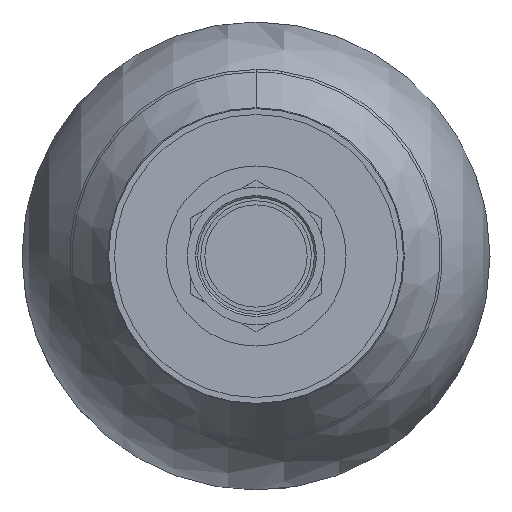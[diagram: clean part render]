
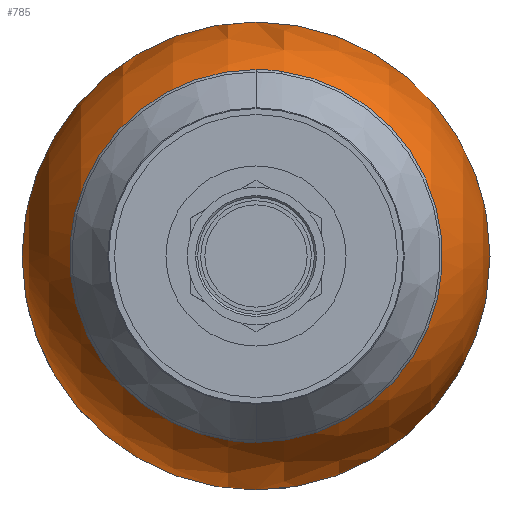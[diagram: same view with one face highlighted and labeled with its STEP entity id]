
A CAD part, front view. The second image highlights one B-rep face of the part: STEP entity #785.
In plain terms, the highlighted spherical face has radius 57.15 mm.
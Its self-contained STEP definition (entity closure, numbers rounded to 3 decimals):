
#245=CARTESIAN_POINT('',(-140.659,63.5,0.0));
#246=VERTEX_POINT('',#245);
#271=CARTESIAN_POINT('',(-140.659,-50.8,0.));
#272=VERTEX_POINT('',#271);
#279=CARTESIAN_POINT('',(-140.659,6.35,0.0));
#280=DIRECTION('',(1.0,0.0,0.0));
#281=DIRECTION('',(0.0,1.0,0.0));
#282=AXIS2_PLACEMENT_3D('',#279,#280,#281);
#283=CIRCLE('',#282,57.15);
#284=EDGE_CURVE('',#272,#246,#283,.T.);
#632=CARTESIAN_POINT('',(-140.659,6.35,0.0));
#633=DIRECTION('',(1.0,0.0,0.0));
#634=DIRECTION('',(0.0,1.0,0.0));
#635=AXIS2_PLACEMENT_3D('',#632,#633,#634);
#636=CIRCLE('',#635,57.15);
#637=EDGE_CURVE('',#246,#272,#636,.T.);
#757=CARTESIAN_POINT('',(-193.405,28.35,0.0));
#758=VERTEX_POINT('',#757);
#759=CARTESIAN_POINT('',(-193.405,6.35,0.0));
#760=DIRECTION('',(1.0,0.0,0.0));
#761=DIRECTION('',(0.0,1.0,0.0));
#762=AXIS2_PLACEMENT_3D('',#759,#760,#761);
#763=CIRCLE('',#762,22.);
#764=EDGE_CURVE('',#758,#758,#763,.T.);
#773=CARTESIAN_POINT('',(-140.659,6.35,0.0));
#774=DIRECTION('',(0.0,0.0,1.0));
#775=DIRECTION('',(1.0,0.0,0.0));
#776=AXIS2_PLACEMENT_3D('',#773,#774,#775);
#777=SPHERICAL_SURFACE('',#776,57.15);
#778=ORIENTED_EDGE('',*,*,#284,.F.);
#779=ORIENTED_EDGE('',*,*,#637,.F.);
#780=EDGE_LOOP('',(#778,#779));
#781=FACE_OUTER_BOUND('',#780,.T.);
#782=ORIENTED_EDGE('',*,*,#764,.T.);
#783=EDGE_LOOP('',(#782));
#784=FACE_BOUND('',#783,.T.);
#785=ADVANCED_FACE('',(#781,#784),#777,.T.);
